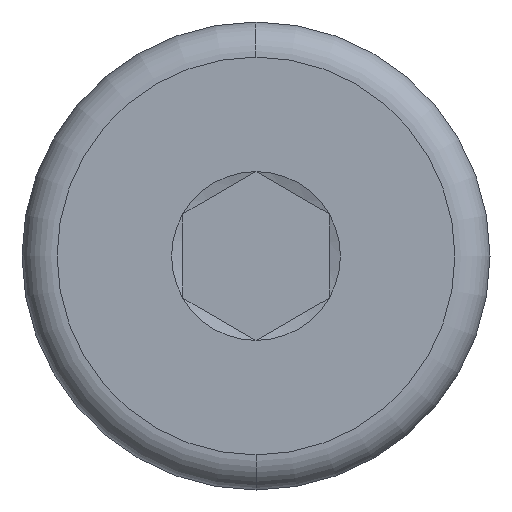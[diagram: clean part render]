
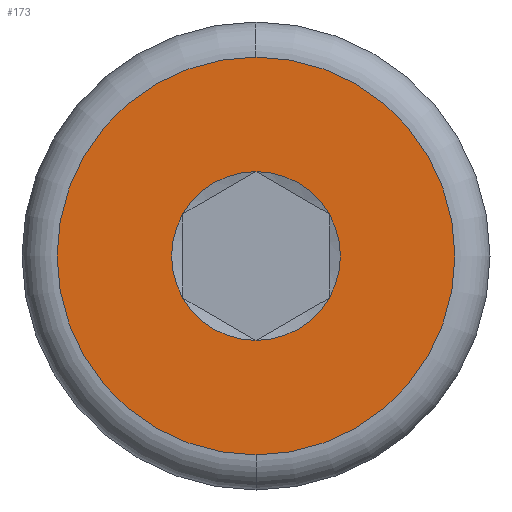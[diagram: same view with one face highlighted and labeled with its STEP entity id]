
A CAD part, left-side view. The second image highlights one B-rep face of the part: STEP entity #173.
In plain terms, the highlighted planar face has unit normal (-1, 0, 0).
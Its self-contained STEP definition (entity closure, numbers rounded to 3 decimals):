
#1 = CIRCLE ( 'NONE', #388, 1.443 ) ;
#2 = DIRECTION ( 'NONE',  ( 0., 0., -1. ) ) ;
#11 = ORIENTED_EDGE ( 'NONE', *, *, #454, .T. ) ;
#41 = CIRCLE ( 'NONE', #403, 1.443 ) ;
#42 = EDGE_CURVE ( 'NONE', #219, #141, #171, .T. ) ;
#50 = AXIS2_PLACEMENT_3D ( 'NONE', #562, #608, #136 ) ;
#65 = DIRECTION ( 'NONE',  ( 0., 0., -1. ) ) ;
#76 = VERTEX_POINT ( 'NONE', #665 ) ;
#77 = CARTESIAN_POINT ( 'NONE',  ( 0., 0., 1.443 ) ) ;
#80 = CARTESIAN_POINT ( 'NONE',  ( 0., 0., 0. ) ) ;
#85 = DIRECTION ( 'NONE',  ( 0., 0., -1. ) ) ;
#87 = ORIENTED_EDGE ( 'NONE', *, *, #233, .T. ) ;
#89 = DIRECTION ( 'NONE',  ( 0., 0., -1. ) ) ;
#106 = CIRCLE ( 'NONE', #341, 1.443 ) ;
#108 = CARTESIAN_POINT ( 'NONE',  ( 0., 0., 0. ) ) ;
#113 = ORIENTED_EDGE ( 'NONE', *, *, #234, .T. ) ;
#119 = DIRECTION ( 'NONE',  ( -1., 0., 0. ) ) ;
#126 = ORIENTED_EDGE ( 'NONE', *, *, #334, .T. ) ;
#129 = ORIENTED_EDGE ( 'NONE', *, *, #584, .T. ) ;
#133 = CARTESIAN_POINT ( 'NONE',  ( 0., 0., 3.4 ) ) ;
#136 = DIRECTION ( 'NONE',  ( 0., 0., -1. ) ) ;
#140 = CARTESIAN_POINT ( 'NONE',  ( 0., 0., 0. ) ) ;
#141 = VERTEX_POINT ( 'NONE', #428 ) ;
#147 = DIRECTION ( 'NONE',  ( 0., 0., -1. ) ) ;
#170 = DIRECTION ( 'NONE',  ( 0., 0., -1. ) ) ;
#171 = CIRCLE ( 'NONE', #598, 3.4 ) ;
#173 = ADVANCED_FACE ( 'NONE', ( #536, #591 ), #228, .T. ) ;
#183 = CIRCLE ( 'NONE', #50, 1.443 ) ;
#186 = DIRECTION ( 'NONE',  ( 0., 0., 1. ) ) ;
#202 = DIRECTION ( 'NONE',  ( 1., 0., 0. ) ) ;
#219 = VERTEX_POINT ( 'NONE', #133 ) ;
#228 = PLANE ( 'NONE',  #329 ) ;
#229 = ORIENTED_EDGE ( 'NONE', *, *, #311, .T. ) ;
#233 = EDGE_CURVE ( 'NONE', #555, #279, #41, .T. ) ;
#234 = EDGE_CURVE ( 'NONE', #279, #485, #284, .T. ) ;
#243 = CARTESIAN_POINT ( 'NONE',  ( 0., 0., 0. ) ) ;
#253 = CARTESIAN_POINT ( 'NONE',  ( 0., 1.25, 0.722 ) ) ;
#279 = VERTEX_POINT ( 'NONE', #361 ) ;
#284 = CIRCLE ( 'NONE', #372, 1.443 ) ;
#286 = ORIENTED_EDGE ( 'NONE', *, *, #522, .F. ) ;
#300 = VERTEX_POINT ( 'NONE', #253 ) ;
#311 = EDGE_CURVE ( 'NONE', #547, #555, #183, .T. ) ;
#316 = DIRECTION ( 'NONE',  ( 1., 0., 0. ) ) ;
#319 = CARTESIAN_POINT ( 'NONE',  ( 0., 0., -1.443 ) ) ;
#329 = AXIS2_PLACEMENT_3D ( 'NONE', #484, #119, #186 ) ;
#333 = CIRCLE ( 'NONE', #366, 1.443 ) ;
#334 = EDGE_CURVE ( 'NONE', #485, #76, #333, .T. ) ;
#336 = EDGE_LOOP ( 'NONE', ( #129, #229, #87, #113, #126, #11 ) ) ;
#341 = AXIS2_PLACEMENT_3D ( 'NONE', #383, #387, #65 ) ;
#361 = CARTESIAN_POINT ( 'NONE',  ( 0., -1.25, -0.722 ) ) ;
#365 = DIRECTION ( 'NONE',  ( 1., 0., 0. ) ) ;
#366 = AXIS2_PLACEMENT_3D ( 'NONE', #140, #406, #89 ) ;
#367 = DIRECTION ( 'NONE',  ( 0., 0., -1. ) ) ;
#372 = AXIS2_PLACEMENT_3D ( 'NONE', #80, #399, #147 ) ;
#383 = CARTESIAN_POINT ( 'NONE',  ( 0., 0., 0. ) ) ;
#387 = DIRECTION ( 'NONE',  ( 1., 0., 0. ) ) ;
#388 = AXIS2_PLACEMENT_3D ( 'NONE', #482, #316, #367 ) ;
#399 = DIRECTION ( 'NONE',  ( 1., 0., 0. ) ) ;
#403 = AXIS2_PLACEMENT_3D ( 'NONE', #243, #202, #85 ) ;
#406 = DIRECTION ( 'NONE',  ( 1., 0., 0. ) ) ;
#428 = CARTESIAN_POINT ( 'NONE',  ( 0., 0., -3.4 ) ) ;
#444 = AXIS2_PLACEMENT_3D ( 'NONE', #108, #639, #170 ) ;
#454 = EDGE_CURVE ( 'NONE', #76, #300, #1, .T. ) ;
#467 = CARTESIAN_POINT ( 'NONE',  ( 0., 0., 0. ) ) ;
#471 = EDGE_LOOP ( 'NONE', ( #286, #606 ) ) ;
#482 = CARTESIAN_POINT ( 'NONE',  ( 0., 0., 0. ) ) ;
#484 = CARTESIAN_POINT ( 'NONE',  ( 0., 0., 0. ) ) ;
#485 = VERTEX_POINT ( 'NONE', #319 ) ;
#522 = EDGE_CURVE ( 'NONE', #141, #219, #573, .T. ) ;
#536 = FACE_BOUND ( 'NONE', #336, .T. ) ;
#547 = VERTEX_POINT ( 'NONE', #77 ) ;
#555 = VERTEX_POINT ( 'NONE', #599 ) ;
#562 = CARTESIAN_POINT ( 'NONE',  ( 0., 0., 0. ) ) ;
#573 = CIRCLE ( 'NONE', #444, 3.4 ) ;
#584 = EDGE_CURVE ( 'NONE', #300, #547, #106, .T. ) ;
#591 = FACE_OUTER_BOUND ( 'NONE', #471, .T. ) ;
#598 = AXIS2_PLACEMENT_3D ( 'NONE', #467, #365, #2 ) ;
#599 = CARTESIAN_POINT ( 'NONE',  ( 0., -1.25, 0.722 ) ) ;
#606 = ORIENTED_EDGE ( 'NONE', *, *, #42, .F. ) ;
#608 = DIRECTION ( 'NONE',  ( 1., 0., 0. ) ) ;
#639 = DIRECTION ( 'NONE',  ( 1., 0., 0. ) ) ;
#665 = CARTESIAN_POINT ( 'NONE',  ( 0., 1.25, -0.722 ) ) ;
